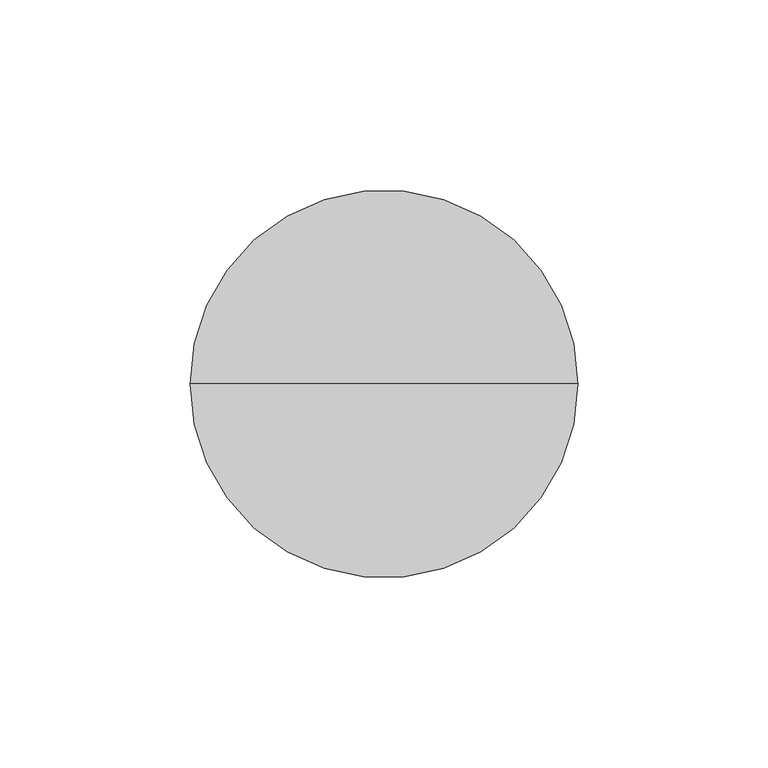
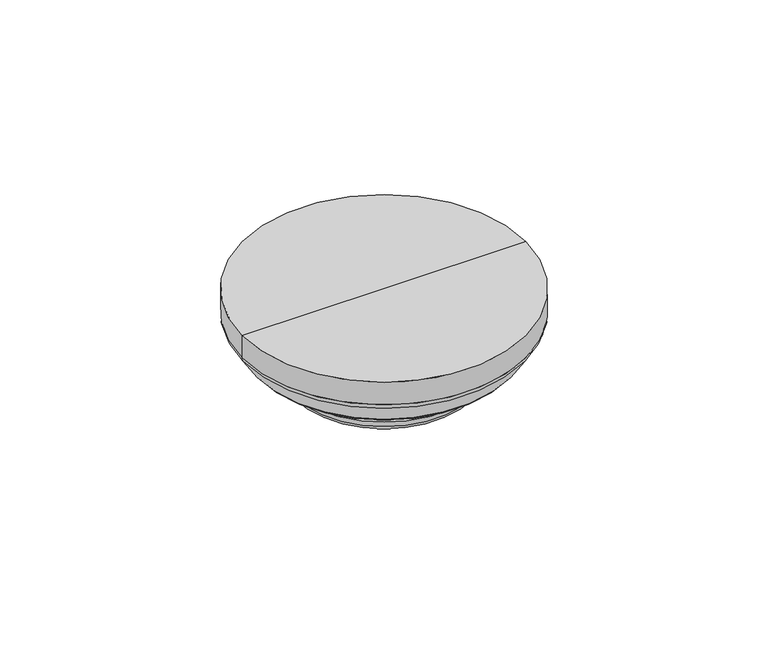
"""IFC4 building model written with IfcOpenShell, lengths in millimetres: alarm geometry, А2ДПИ_ тип модель : А2ДПИ (на перекрытии)."""

import ifcopenshell
import ifcopenshell.guid

model = None  # the IFC model being written
_history = None  # IfcOwnerHistory: only IFC2X3 demands one
_inside = {}  # id of a spatial element -> (the spatial element, [elements in it])
_under = {}  # id of a project, library or spatial element -> (it, [spatial elements below it])
_declared = {}  # id of a project -> (the project, [libraries it declares])
_typed = {}  # id of a type object -> (the type object, [elements of that type])
_made_of = {}  # id of a material, layer set ... -> (it, [elements and type objects made of it])


def new_model(schema):
    """Start an empty IFC model of exactly this schema.

    Asked for "IFC4X3", IfcOpenShell would pick the latest addendum, in which some entities
    have other attributes; the version numbers below select the first issue.
    IFC2X3 requires an IfcOwnerHistory on every rooted entity: one is made here for all.
    """
    global model, _history
    if schema == "IFC4X3":
        model = ifcopenshell.file(schema_version=(4, 3, 0, 0))
    else:
        model = ifcopenshell.file(schema=schema)
    _inside.clear()
    _under.clear()
    _declared.clear()
    _typed.clear()
    _made_of.clear()
    _history = None
    if model.schema == "IFC2X3":
        org = make("IfcOrganization", Name="unknown")
        user = make(
            "IfcPersonAndOrganization",
            ThePerson=make("IfcPerson", FamilyName="unknown"),
            TheOrganization=org,
        )
        app = make(
            "IfcApplication",
            ApplicationDeveloper=org,
            Version="unknown",
            ApplicationFullName="unknown",
            ApplicationIdentifier="unknown",
        )
        _history = make(
            "IfcOwnerHistory",
            OwningUser=user,
            OwningApplication=app,
            ChangeAction="ADDED",
            CreationDate=0,
        )
    return model


def make(cls, **values):
    """One entity of the class cls with the attributes given. An attribute that is None is left unset."""
    return model.create_entity(
        cls, **{name: value for name, value in values.items() if value is not None}
    )


def rooted(cls, **values):
    """An entity with a GlobalId (a new one), such as an element, a storey or a relation."""
    return make(cls, GlobalId=ifcopenshell.guid.new(), OwnerHistory=_history, **values)


def si_unit(unit_type, name, prefix=None):
    """IfcSIUnit, for example si_unit("LENGTHUNIT", "METRE", prefix="MILLI")."""
    return make("IfcSIUnit", UnitType=unit_type, Prefix=prefix, Name=name)


def assignment(units):
    """IfcUnitAssignment: the units of a project."""
    return None if units is None else make("IfcUnitAssignment", Units=units)


def point(xyz):
    """IfcCartesianPoint."""
    return None if xyz is None else make("IfcCartesianPoint", Coordinates=xyz)


def direction(xyz):
    """IfcDirection."""
    return None if xyz is None else make("IfcDirection", DirectionRatios=xyz)


def frame(location, z_axis=None, x_axis=None):
    """IfcAxis2Placement3D, a coordinate frame: its origin and axes. An axis left out is left unset."""
    return make(
        "IfcAxis2Placement3D",
        Location=point(location),
        Axis=direction(z_axis),
        RefDirection=direction(x_axis),
    )


def frame_2d(location, x_axis=None):
    """IfcAxis2Placement2D, a coordinate frame in the plane: its origin and x axis."""
    return make(
        "IfcAxis2Placement2D", Location=point(location), RefDirection=direction(x_axis)
    )


def origin():
    """The frame at (0, 0, 0) with its axes left unset."""
    return frame((0.0, 0.0, 0.0))


def origin_2d():
    """The frame at (0, 0) in the plane with its x axis left unset."""
    return frame_2d((0.0, 0.0))


def place(relative_to, where):
    """IfcLocalPlacement: puts the frame where relative to a parent placement (None: the world)."""
    return make(
        "IfcLocalPlacement", PlacementRelTo=relative_to, RelativePlacement=where
    )


def context(
    kind, dimensions, precision=None, world=None, true_north=None, identifier=None
):
    """IfcGeometricRepresentationContext, for example the 3D "Model" context."""
    return make(
        "IfcGeometricRepresentationContext",
        ContextIdentifier=identifier,
        ContextType=kind,
        CoordinateSpaceDimension=dimensions,
        Precision=precision,
        WorldCoordinateSystem=world,
        TrueNorth=true_north,
    )


def project(units=None, contexts=None):
    """IfcProject with its units and contexts."""
    return rooted(
        "IfcProject",
        Name="project",
        RepresentationContexts=contexts,
        UnitsInContext=assignment(units),
    )


def spatial(cls, under=None, at=None, **own):
    """A site, building, storey or space (cls), placed at a placement, below another one or the project."""
    s = rooted(cls, ObjectPlacement=at, **own)
    if under is not None:
        _under.setdefault(under.id(), (under, []))[1].append(s)
    return s


def polyline(points):
    """IfcPolyline through the points."""
    return make("IfcPolyline", Points=[point(p) for p in points])


def circle_curve(where, radius):
    """IfcCircle in the frame where."""
    return make("IfcCircle", Position=where, Radius=radius)


def ellipse_curve(where, semi_axis1, semi_axis2):
    """IfcEllipse in the frame where."""
    return make(
        "IfcEllipse", Position=where, SemiAxis1=semi_axis1, SemiAxis2=semi_axis2
    )


def trimmed(basis, trim1, trim2, sense, master):
    """IfcTrimmedCurve: the piece of a basis curve between two trims."""
    return make(
        "IfcTrimmedCurve",
        BasisCurve=basis,
        Trim1=trim1,
        Trim2=trim2,
        SenseAgreement=sense,
        MasterRepresentation=master,
    )


def segment(curve, same_sense, transition):
    """IfcCompositeCurveSegment."""
    return make(
        "IfcCompositeCurveSegment",
        Transition=transition,
        SameSense=same_sense,
        ParentCurve=curve,
    )


def composite_curve(segments, self_intersect=None):
    """IfcCompositeCurve: segments joined end to end."""
    return make("IfcCompositeCurve", Segments=segments, SelfIntersect=self_intersect)


def outline(outer, holes=None, kind="AREA"):
    """IfcArbitraryClosedProfileDef: a profile drawn as a closed curve; with holes, ...WithVoids."""
    if holes is None:
        return make("IfcArbitraryClosedProfileDef", ProfileType=kind, OuterCurve=outer)
    return make(
        "IfcArbitraryProfileDefWithVoids",
        ProfileType=kind,
        OuterCurve=outer,
        InnerCurves=holes,
    )


def extrude(swept, where, along, depth):
    """IfcExtrudedAreaSolid: the profile swept, set in the frame where, extruded along a direction by depth."""
    return make(
        "IfcExtrudedAreaSolid",
        SweptArea=swept,
        Position=where,
        ExtrudedDirection=direction(along),
        Depth=depth,
    )


def shape(context_of_items, identifier, shape_type, items):
    """IfcShapeRepresentation: the items that make up one representation, for example the "Body"."""
    return make(
        "IfcShapeRepresentation",
        ContextOfItems=context_of_items,
        RepresentationIdentifier=identifier,
        RepresentationType=shape_type,
        Items=items,
    )


def source(mapping_origin, context_of_items, identifier, shape_type, items):
    """IfcRepresentationMap: a shape defined once, which mapped items show again and again."""
    return make(
        "IfcRepresentationMap",
        MappingOrigin=mapping_origin,
        MappedRepresentation=shape(context_of_items, identifier, shape_type, items),
    )


def transform(
    local_origin,
    x_axis=None,
    y_axis=None,
    z_axis=None,
    scale=None,
    scale2=None,
    scale3=None,
    uniform=True,
):
    """IfcCartesianTransformationOperator3D, or its non-uniform kind. x_axis, y_axis, z_axis: its Axis1, 2, 3."""
    if uniform:
        return make(
            "IfcCartesianTransformationOperator3D",
            Axis1=direction(x_axis),
            Axis2=direction(y_axis),
            LocalOrigin=point(local_origin),
            Scale=scale,
            Axis3=direction(z_axis),
        )
    return make(
        "IfcCartesianTransformationOperator3DnonUniform",
        Axis1=direction(x_axis),
        Axis2=direction(y_axis),
        LocalOrigin=point(local_origin),
        Scale=scale,
        Axis3=direction(z_axis),
        Scale2=scale2,
        Scale3=scale3,
    )


def mapped(mapping_source, mapping_target):
    """IfcMappedItem: shows the shape of a source again, moved by a transform."""
    return make(
        "IfcMappedItem", MappingSource=mapping_source, MappingTarget=mapping_target
    )


def made_of(thing, what):
    """Note that an element or type object is made of a material, layer set ...; save() writes the relation."""
    if what is not None:
        _made_of.setdefault(what.id(), (what, []))[1].append(thing)
    return thing


def element(
    cls,
    number,
    at=None,
    inside=None,
    cuts=None,
    type_object=None,
    material=None,
    context=None,
    identifier="Body",
    shape_type=None,
    held_by="IfcProductDefinitionShape",
    body=None,
    shapes=None,
    **own,
):
    """One element of the class cls, such as IfcWall. Its Tag is "e" and its number.

    at: its placement. inside: the storey or other place that contains it. cuts: it is an
    opening in that element (IfcRelVoidsElement). A single representation is given by context,
    identifier, shape_type and body (its items); several are given by shapes. held_by: the class
    of the entity that holds the representations. save() writes the other relations.
    """
    e = rooted(cls, Tag="e%d" % number, ObjectPlacement=at, **own)
    if body is not None:
        shapes = [shape(context, identifier, shape_type, body)]
    if shapes is not None:
        e.Representation = make(held_by, Representations=shapes)
    if inside is not None:
        _inside.setdefault(inside.id(), (inside, []))[1].append(e)
    if cuts is not None:
        rooted(
            "IfcRelVoidsElement", RelatingBuildingElement=cuts, RelatedOpeningElement=e
        )
    if type_object is not None:
        _typed.setdefault(type_object.id(), (type_object, []))[1].append(e)
    return made_of(e, material)


def aggregate(whole, parts):
    """IfcRelAggregates: a whole, such as a stair, and the parts it consists of."""
    return rooted("IfcRelAggregates", RelatingObject=whole, RelatedObjects=parts)


def save(model, path):
    """Write the relations noted so far, then the file.

    IfcRelAggregates (storeys below a building ...), IfcRelContainedInSpatialStructure (elements
    in a storey), IfcRelDefinesByType, IfcRelAssociatesMaterial and IfcRelDeclares: one each for
    every whole, place, type object, material and project.
    """
    for whole, parts in _under.values():
        aggregate(whole, parts)
    for where, things in _inside.values():
        rooted(
            "IfcRelContainedInSpatialStructure",
            RelatedElements=things,
            RelatingStructure=where,
        )
    for kind, things in _typed.values():
        rooted("IfcRelDefinesByType", RelatedObjects=things, RelatingType=kind)
    for what, things in _made_of.values():
        rooted("IfcRelAssociatesMaterial", RelatedObjects=things, RelatingMaterial=what)
    for by, libraries in _declared.values():
        rooted("IfcRelDeclares", RelatingContext=by, RelatedDefinitions=libraries)
    model.write(path)


def plane_surface(at):
    """IfcPlane: the flat surface through the origin of the frame at, square to its z axis."""
    return make("IfcPlane", Position=at)


def cylinder_surface(at, radius):
    """IfcCylindricalSurface: all points at the distance radius from the z axis of the frame at."""
    return make("IfcCylindricalSurface", Position=at, Radius=radius)


def revolved_surface(curve, axis_point, axis_direction):
    """IfcSurfaceOfRevolution: the curve turned about the line through axis_point along axis_direction."""
    return make(
        "IfcSurfaceOfRevolution",
        SweptCurve=make("IfcArbitraryOpenProfileDef", ProfileType="CURVE", Curve=curve),
        AxisPosition=make("IfcAxis1Placement", Location=point(axis_point), Axis=direction(axis_direction)),
    )


def advanced_brep(points, edges, surfaces, faces):
    """IfcAdvancedBrep: a solid bounded by faces that lie on surfaces and meet in shared edges.

    An edge is (start, end): straight between two places in points (the first is 0);
    or (start, end, curve); or (start, end, curve, False) where it runs against its curve.
    A face is (place in surfaces, loops), or (place, loops, False) where it looks against
    its surface's normal. A loop lists edges by number (the first is 1), with a minus sign
    where the edge is run from its end to its start. The first loop is the outer one.
    """
    corners = [point(p) for p in points]
    vertices = [make("IfcVertexPoint", VertexGeometry=c) for c in corners]
    made = []
    for start, end, *more in edges:
        made.append(
            make(
                "IfcEdgeCurve",
                EdgeStart=vertices[start],
                EdgeEnd=vertices[end],
                EdgeGeometry=more[0] if more else make("IfcPolyline", Points=[corners[start], corners[end]]),
                SameSense=more[1] if len(more) > 1 else True,
            )
        )
    hull = []
    for where, loops, *sense in faces:
        bounds = []
        for j, loop in enumerate(loops):
            ring = [make("IfcOrientedEdge", EdgeElement=made[abs(k) - 1], Orientation=k > 0) for k in loop]
            bounds.append(
                make(
                    "IfcFaceOuterBound" if j == 0 else "IfcFaceBound",
                    Bound=make("IfcEdgeLoop", EdgeList=ring),
                    Orientation=True,
                )
            )
        hull.append(make("IfcAdvancedFace", Bounds=bounds, FaceSurface=surfaces[where], SameSense=sense[0] if sense else True))
    return make("IfcAdvancedBrep", Outer=make("IfcClosedShell", CfsFaces=hull))


def alarm_bf9d1f58(model_context):
    return source(origin(), model_context, "Body", "SolidModel", [
        extrude(outline(composite_curve([segment(trimmed(circle_curve(origin_2d(), 33.1926035), [point((27.6788417, 18.3202252))], [point((29.7052013, 14.8104674))], False, "CARTESIAN"), True, "CONTINUOUS"), segment(polyline([(29.7052013, 14.8104674), (28.8997604, 14.4088894)]), True, "CONTINUOUS"), segment(trimmed(circle_curve(origin_2d(), 32.2926035), [point((28.8997604, 14.4088894))], [point((26.9283444, 17.823482))], True, "CARTESIAN"), True, "CONTINUOUS"), segment(polyline([(26.9283444, 17.823482), (27.6788417, 18.3202252)]), True, "CONTINUOUS")], self_intersect=False)), frame((0.0, 0.0, -40.7), z_axis=(0.0, 0.0, 1.0), x_axis=(1.0, 0.0, 0.0)), (0.0, 0.0, 1.0), 9.6051821),
        extrude(outline(composite_curve([segment(trimmed(circle_curve(frame_2d((0.9938218, 10.016268)), 10.0162681), [point((0.9938218, 0.0))], [point((10.1633833, 5.9857881))], True, "CARTESIAN"), True, "CONTINUOUS"), segment(polyline([(10.1633833, 5.9857881), (10.4636698, 7.1064726), (11.7554446, 6.7603426), (9.0373791, -3.3836158), (-0.2405143, -0.8976117), (0.0, 0.0), (0.9938218, 0.0)]), True, "CONTINUOUS")], self_intersect=False)), frame((30.2852585, 13.6470527, -40.7), z_axis=(-0.44619782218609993, 0.8949343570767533, 0.0), x_axis=(0.23162605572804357, 0.11548449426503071, 0.9659258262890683)), (0.0, 0.0, 1.0), 1.3),
        extrude(outline(composite_curve([segment(trimmed(circle_curve(frame_2d((0.9938218, 10.0162681)), 10.0162681), [point((0.9938218, 0.0))], [point((10.1633833, 5.9857882))], True, "CARTESIAN"), True, "CONTINUOUS"), segment(polyline([(10.1633833, 5.9857882), (10.4636698, 7.1064727), (11.7554446, 6.7603426), (9.0373791, -3.3836158), (-0.2405143, -0.8976117), (0.0, 0.0), (0.9938218, 0.0)]), True, "CONTINUOUS")], self_intersect=False)), frame((27.6788417, 18.3202252, -40.7), z_axis=(-0.5519369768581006, 0.8338858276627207, 0.0), x_axis=(0.21582553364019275, 0.1428518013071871, 0.9659258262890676)), (0.0, 0.0, 1.0), 1.325191),
        extrude(outline(composite_curve([segment(trimmed(circle_curve(origin_2d(), 33.1926035), [point((29.7052013, -14.8104674))], [point((27.6788417, -18.3202252))], False, "CARTESIAN"), True, "CONTINUOUS"), segment(polyline([(27.6788417, -18.3202252), (26.9283444, -17.823482)]), True, "CONTINUOUS"), segment(trimmed(circle_curve(origin_2d(), 32.2926035), [point((26.9283444, -17.823482))], [point((28.8997604, -14.4088894))], True, "CARTESIAN"), True, "CONTINUOUS"), segment(polyline([(28.8997604, -14.4088894), (29.7052013, -14.8104674)]), True, "CONTINUOUS")], self_intersect=False)), frame((0.0, 0.0, -40.7), z_axis=(0.0, 0.0, 1.0), x_axis=(1.0, 0.0, 0.0)), (0.0, 0.0, 1.0), 9.6051821),
        extrude(outline(composite_curve([segment(trimmed(circle_curve(frame_2d((0.9938218, 10.016268)), 10.0162681), [point((0.9938217, 0.0))], [point((10.1633833, 5.9857882))], True, "CARTESIAN"), True, "CONTINUOUS"), segment(polyline([(10.1633833, 5.9857882), (10.4636698, 7.1064727), (11.7554446, 6.7603427), (9.0373791, -3.3836158), (-0.2405143, -0.8976117), (0.0, 0.0), (0.9938217, 0.0)]), True, "CONTINUOUS")], self_intersect=False)), frame((26.9613236, -19.4042768, -40.7), z_axis=(0.5519369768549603, 0.8338858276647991, 0.0), x_axis=(0.21582553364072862, -0.142851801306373, 0.9659258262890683)), (0.0, 0.0, 1.0), 1.3),
        extrude(outline(composite_curve([segment(trimmed(circle_curve(frame_2d((0.9938218, 10.0162681)), 10.0162681), [point((0.9938218, 0.0))], [point((10.1633833, 5.9857882))], True, "CARTESIAN"), True, "CONTINUOUS"), segment(polyline([(10.1633833, 5.9857882), (10.4636698, 7.1064727), (11.7554446, 6.7603427), (9.0373791, -3.3836157), (-0.2405143, -0.8976117), (0.0, 0.0), (0.9938218, 0.0)]), True, "CONTINUOUS")], self_intersect=False)), frame((29.7052013, -14.8104674, -40.7), z_axis=(0.44619782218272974, 0.8949343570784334, 0.0), x_axis=(0.23162605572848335, -0.11548449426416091, 0.9659258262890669)), (0.0, 0.0, 1.0), 1.325191),
        extrude(outline(composite_curve([segment(trimmed(circle_curve(origin_2d(), 33.1926035), [point((2.0263596, -33.1306926))], [point((-2.0263596, -33.1306926))], False, "CARTESIAN"), True, "CONTINUOUS"), segment(polyline([(-2.0263596, -33.1306926), (-1.971416, -32.2323713)]), True, "CONTINUOUS"), segment(trimmed(circle_curve(origin_2d(), 32.2926035), [point((-1.971416, -32.2323713))], [point((1.971416, -32.2323713))], True, "CARTESIAN"), True, "CONTINUOUS"), segment(polyline([(1.971416, -32.2323713), (2.0263596, -33.1306926)]), True, "CONTINUOUS")], self_intersect=False)), frame((0.0, 0.0, -40.7), z_axis=(0.0, 0.0, 1.0), x_axis=(1.0, 0.0, 0.0)), (0.0, 0.0, 1.0), 9.6051821),
        extrude(outline(composite_curve([segment(polyline([(-0.9938218, 1e-07), (0.0, 0.0), (0.2405143, -0.8976117), (-9.0373791, -3.3836157), (-11.7554446, 6.7603427), (-10.4636698, 7.1064727), (-10.1633833, 5.9857883)]), True, "CONTINUOUS"), segment(trimmed(circle_curve(frame_2d((-0.9938218, 10.0162681)), 10.0162681), [point((-10.1633833, 5.9857883))], [point((-0.9938218, 1e-07))], True, "CARTESIAN"), True, "CONTINUOUS")], self_intersect=False)), frame((-2.0263596, -33.1306926, -40.7), z_axis=(-0.9981347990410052, 0.06104852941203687, 0.0), x_axis=(0.01580052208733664, 0.25833629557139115, -0.9659258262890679)), (0.0, 0.0, 1.0), 1.3),
        extrude(outline(composite_curve([segment(trimmed(circle_curve(frame_2d((0.9938218, 10.0162681)), 10.0162681), [point((0.9938218, 1e-07))], [point((10.1633833, 5.9857883))], True, "CARTESIAN"), True, "CONTINUOUS"), segment(polyline([(10.1633833, 5.9857883), (10.4636698, 7.1064727), (11.7554446, 6.7603427), (9.0373791, -3.3836157), (-0.2405143, -0.8976117), (0.0, 0.0), (0.9938218, 1e-07)]), True, "CONTINUOUS")], self_intersect=False)), frame((2.0263596, -33.1306926, -40.7), z_axis=(0.9981347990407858, 0.06104852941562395, 0.0), x_axis=(0.01580052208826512, -0.2583362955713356, 0.9659258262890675)), (0.0, 0.0, 1.0), 1.325191),
        extrude(outline(composite_curve([segment(trimmed(circle_curve(origin_2d(), 33.1926035), [point((-27.6788417, -18.3202252))], [point((-29.7052013, -14.8104674))], False, "CARTESIAN"), True, "CONTINUOUS"), segment(polyline([(-29.7052013, -14.8104674), (-28.8997604, -14.4088894)]), True, "CONTINUOUS"), segment(trimmed(circle_curve(origin_2d(), 32.2926035), [point((-28.8997604, -14.4088894))], [point((-26.9283444, -17.823482))], True, "CARTESIAN"), True, "CONTINUOUS"), segment(polyline([(-26.9283444, -17.823482), (-27.6788417, -18.3202252)]), True, "CONTINUOUS")], self_intersect=False)), frame((0.0, 0.0, -40.7), z_axis=(0.0, 0.0, 1.0), x_axis=(1.0, 0.0, 0.0)), (0.0, 0.0, 1.0), 9.6051821),
        extrude(outline(composite_curve([segment(polyline([(-0.9938218, 0.0), (0.0, 0.0), (0.2405143, -0.8976117), (-9.0373791, -3.3836157), (-11.7554446, 6.7603427), (-10.4636698, 7.1064727), (-10.1633833, 5.9857882)]), True, "CONTINUOUS"), segment(trimmed(circle_curve(frame_2d((-0.9938218, 10.0162681)), 10.0162681), [point((-10.1633833, 5.9857882))], [point((-0.9938218, 0.0))], True, "CARTESIAN"), True, "CONTINUOUS")], self_intersect=False)), frame((-29.7052013, -14.8104674, -40.7), z_axis=(-0.4461978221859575, 0.8949343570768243, 0.0), x_axis=(0.23162605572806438, 0.11548449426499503, -0.9659258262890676)), (0.0, 0.0, 1.0), 1.3),
        extrude(outline(composite_curve([segment(polyline([(-0.9938217, 0.0), (0.0, 0.0), (0.2405143, -0.8976117), (-9.0373791, -3.3836158), (-11.7554446, 6.7603427), (-10.4636698, 7.1064727), (-10.1633833, 5.9857882)]), True, "CONTINUOUS"), segment(trimmed(circle_curve(frame_2d((-0.9938218, 10.0162681)), 10.0162681), [point((-10.1633833, 5.9857882))], [point((-0.9938217, 0.0))], True, "CARTESIAN"), True, "CONTINUOUS")], self_intersect=False)), frame((-26.9474197, -19.4252833, -40.7), z_axis=(-0.5519369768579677, 0.8338858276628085, 0.0), x_axis=(0.2158255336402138, 0.1428518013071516, -0.9659258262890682)), (0.0, 0.0, 1.0), 1.325191),
        extrude(outline(composite_curve([segment(trimmed(circle_curve(origin_2d(), 33.1926035), [point((-29.7052013, 14.8104674))], [point((-27.6788417, 18.3202252))], False, "CARTESIAN"), True, "CONTINUOUS"), segment(polyline([(-27.6788417, 18.3202252), (-26.9283444, 17.823482)]), True, "CONTINUOUS"), segment(trimmed(circle_curve(origin_2d(), 32.2926035), [point((-26.9283444, 17.823482))], [point((-28.8997604, 14.4088894))], True, "CARTESIAN"), True, "CONTINUOUS"), segment(polyline([(-28.8997604, 14.4088894), (-29.7052013, 14.8104674)]), True, "CONTINUOUS")], self_intersect=False)), frame((0.0, 0.0, -40.7), z_axis=(0.0, 0.0, 1.0), x_axis=(1.0, 0.0, 0.0)), (0.0, 0.0, 1.0), 9.6051821),
        extrude(outline(composite_curve([segment(polyline([(-0.9938218, 0.0), (0.0, 0.0), (0.2405143, -0.8976117), (-9.0373791, -3.3836158), (-11.7554446, 6.7603426), (-10.4636698, 7.1064727), (-10.1633833, 5.9857882)]), True, "CONTINUOUS"), segment(trimmed(circle_curve(frame_2d((-0.9938218, 10.0162681)), 10.0162681), [point((-10.1633833, 5.9857882))], [point((-0.9938218, 0.0))], True, "CARTESIAN"), True, "CONTINUOUS")], self_intersect=False)), frame((-27.6788417, 18.3202252, -40.7), z_axis=(0.5519369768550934, 0.833885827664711, 0.0), x_axis=(0.21582553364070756, -0.1428518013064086, -0.9659258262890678)), (0.0, 0.0, 1.0), 1.3),
        extrude(outline(composite_curve([segment(polyline([(-0.9938218, 0.0), (0.0, 0.0), (0.2405143, -0.8976117), (-9.0373791, -3.3836157), (-11.7554446, 6.7603427), (-10.4636698, 7.1064727), (-10.1633833, 5.9857882)]), True, "CONTINUOUS"), segment(trimmed(circle_curve(frame_2d((-0.9938218, 10.0162681)), 10.0162681), [point((-10.1633833, 5.9857882))], [point((-0.9938218, 0.0))], True, "CARTESIAN"), True, "CONTINUOUS")], self_intersect=False)), frame((-30.2964986, 13.6245084, -40.7), z_axis=(0.44619782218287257, 0.8949343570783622, 0.0), x_axis=(0.23162605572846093, -0.11548449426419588, -0.9659258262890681)), (0.0, 0.0, 1.0), 1.325191),
        extrude(outline(composite_curve([segment(trimmed(circle_curve(frame_2d((0.9938218, 10.016268)), 10.0162681), [point((0.9938217, 0.0))], [point((10.1633833, 5.9857882))], True, "CARTESIAN"), True, "CONTINUOUS"), segment(polyline([(10.1633833, 5.9857882), (10.4636698, 7.1064726), (11.7554446, 6.7603426), (9.0373791, -3.3836158), (-0.2405144, -0.8976118), (0.0, 0.0), (0.9938217, 0.0)]), True, "CONTINUOUS")], self_intersect=False)), frame((3.3239349, 33.0513296, -40.7), z_axis=(-0.9981347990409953, 0.061048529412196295, 0.0), x_axis=(0.015800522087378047, 0.25833629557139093, 0.9659258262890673)), (0.0, 0.0, 1.0), 1.3),
        extrude(outline(composite_curve([segment(polyline([(-0.9938217, 0.0), (0.0, 0.0), (0.2405143, -0.8976117), (-9.0373791, -3.3836157), (-11.7554446, 6.7603426), (-10.4636698, 7.1064726), (-10.1633833, 5.9857882)]), True, "CONTINUOUS"), segment(trimmed(circle_curve(frame_2d((-0.9938218, 10.016268)), 10.0162681), [point((-10.1633833, 5.9857882))], [point((-0.9938217, 0.0))], True, "CARTESIAN"), True, "CONTINUOUS")], self_intersect=False)), frame((-3.3490789, 33.0497917, -40.7), z_axis=(0.9981347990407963, 0.06104852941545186, 0.0), x_axis=(0.015800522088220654, -0.2583362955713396, -0.9659258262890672)), (0.0, 0.0, 1.0), 1.325191),
        extrude(outline(composite_curve([segment(trimmed(circle_curve(origin_2d(), 29.0), [point((-29.0, 0.0))], [point((29.0, 0.0))], False, "CARTESIAN"), True, "CONTINUOUS"), segment(trimmed(circle_curve(origin_2d(), 29.0), [point((29.0, 0.0))], [point((-29.0, 0.0))], False, "CARTESIAN"), True, "CONTINUOUS")], self_intersect=False)), frame((0.0, 0.0, -40.7), z_axis=(0.0, 0.0, 1.0), x_axis=(1.0, 0.0, 0.0)), (0.0, 0.0, 1.0), 9.6051821),
        advanced_brep(
        [(0.0, 0.0, -13.030442), (-51.0, 0.0, -13.030442), (51.0, 0.0, -13.030442), (0.0, 0.0, -40.7), (-33.1926035, 0.0, -40.7), (33.1926035, 0.0, -40.7), (2.0263596, 33.1306926, -40.7), (1.971416, 32.2323713, -40.7), (-1.971416, 32.2323713, -40.7), (-2.0263596, 33.1306926, -40.7), (17.0369869, 0.0, -46.0993937), (-17.0369869, 0.0, -46.0993937), (0.0, 0.0, -46.0993937), (45.5285317, 0.0, -30.9355647), (-45.5285317, 0.0, -30.9355647), (-42.765126, 0.0, -32.4321616), (42.765126, 0.0, -32.4321616), (50.4987362, 0.0, -23.3177072), (-50.4987362, 0.0, -23.3177072), (51.0, 0.0, -21.6320659), (-51.0, 0.0, -21.6320659), (30.1632448, 0.0, -44.9355917), (-30.1632448, 0.0, -44.9355917), (32.6564037, 0.0, -42.7296342), (-32.6564037, 0.0, -42.7296342), (42.765126, 0.0, -31.0948179), (-42.765126, 0.0, -31.0948179), (0.0, 0.0, -31.0948179), (2.0263596, 33.1306926, -31.0948179), (-2.0263596, 33.1306926, -31.0948179), (-1.971416, 32.2323713, -31.0948179), (1.971416, 32.2323713, -31.0948179)],
        [
            (0, 1),
            (1, 2, circle_curve(frame((0.0, 0.0, -13.030442), z_axis=(0.0, 0.0, 1.0), x_axis=(-1.0, 0.0, 0.0)), 51.0)),
            (2, 0),
            (2, 1, circle_curve(frame((0.0, 0.0, -13.030442), z_axis=(0.0, 0.0, 1.0), x_axis=(-1.0, 0.0, 0.0)), 51.0)),
            (3, 4),
            (4, 5, circle_curve(frame((0.0, 0.0, -40.7), z_axis=(0.0, 0.0, 1.0), x_axis=(-1.0, 0.0, 0.0)), 33.1926035)),
            (5, 3),
            (5, 6, circle_curve(frame((0.0, 0.0, -40.7), z_axis=(0.0, 0.0, 1.0), x_axis=(-1.0, 0.0, 0.0)), 33.1926035)),
            (6, 7),
            (7, 8, circle_curve(frame((0.0, 0.0, -40.7), z_axis=(0.0, 0.0, 1.0), x_axis=(-1.0, 0.0, 0.0)), 32.2926035)),
            (8, 9),
            (9, 4, circle_curve(frame((0.0, 0.0, -40.7), z_axis=(0.0, 0.0, 1.0), x_axis=(-1.0, 0.0, 0.0)), 33.1926035)),
            (10, 11, circle_curve(frame((0.0, 0.0, -46.0993937), z_axis=(0.0, 0.0, -1.0), x_axis=(-1.0, 0.0, 0.0)), 17.0369869)),
            (11, 12),
            (12, 10),
            (11, 10, circle_curve(frame((0.0, 0.0, -46.0993937), z_axis=(0.0, 0.0, -1.0), x_axis=(-1.0, 0.0, 0.0)), 17.0369869)),
            (13, 14, circle_curve(frame((0.0, 0.0, -30.9355647), z_axis=(0.0, 0.0, -1.0), x_axis=(-1.0, 0.0, 0.0)), 45.5285317)),
            (14, 15, circle_curve(frame((-42.765126, 0.0, -29.1326048), z_axis=(0.0, -1.0, 0.0), x_axis=(1.0, 0.0, 0.0)), 3.2995568)),
            (15, 16, circle_curve(frame((0.0, 0.0, -32.4321616), z_axis=(0.0, 0.0, 1.0), x_axis=(-1.0, 0.0, 0.0)), 42.765126)),
            (16, 13, circle_curve(frame((42.765126, 0.0, -29.1326048), z_axis=(0.0, -1.0, 0.0), x_axis=(-1.0, 0.0, 0.0)), 3.2995568)),
            (14, 13, circle_curve(frame((0.0, 0.0, -30.9355647), z_axis=(0.0, 0.0, -1.0), x_axis=(-1.0, 0.0, 0.0)), 45.5285317)),
            (16, 15, circle_curve(frame((0.0, 0.0, -32.4321616), z_axis=(0.0, 0.0, 1.0), x_axis=(-1.0, 0.0, 0.0)), 42.765126)),
            (13, 17),
            (17, 18, circle_curve(frame((0.0, 0.0, -23.3177072), z_axis=(0.0, 0.0, -1.0), x_axis=(-1.0, 0.0, 0.0)), 50.4987362)),
            (18, 14),
            (18, 17, circle_curve(frame((0.0, 0.0, -23.3177072), z_axis=(0.0, 0.0, -1.0), x_axis=(-1.0, 0.0, 0.0)), 50.4987362)),
            (17, 19, circle_curve(frame((47.9151453, 0.0, -21.6320659), z_axis=(0.0, -1.0, 0.0), x_axis=(-1.0, 0.0, 0.0)), 3.0848547)),
            (19, 20, circle_curve(frame((0.0, 0.0, -21.6320659), z_axis=(0.0, 0.0, -1.0), x_axis=(-1.0, 0.0, 0.0)), 51.0)),
            (20, 18, circle_curve(frame((-47.9151453, 0.0, -21.6320659), z_axis=(0.0, -1.0, 0.0), x_axis=(1.0, 0.0, 0.0)), 3.0848547)),
            (20, 19, circle_curve(frame((0.0, 0.0, -21.6320659), z_axis=(0.0, 0.0, -1.0), x_axis=(-1.0, 0.0, 0.0)), 51.0)),
            (1, 20),
            (19, 2),
            (10, 21, circle_curve(frame((15.7688576, 0.0, 42.8094874), z_axis=(0.0, -1.0, 0.0), x_axis=(0.16188397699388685, 0.0, -0.9868097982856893)), 88.9179244)),
            (21, 22, circle_curve(frame((0.0, 0.0, -44.9355917), z_axis=(0.0, 0.0, -1.0), x_axis=(-1.0, 0.0, 0.0)), 30.1632448)),
            (22, 11, circle_curve(frame((-15.7688576, 0.0, 42.8094874), z_axis=(0.0, -1.0, 0.0), x_axis=(-0.16188397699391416, 0.0, -0.9868097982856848)), 88.9179244)),
            (22, 21, circle_curve(frame((0.0, 0.0, -44.9355917), z_axis=(0.0, 0.0, -1.0), x_axis=(-1.0, 0.0, 0.0)), 30.1632448)),
            (21, 23, circle_curve(frame((29.7559056, 0.0, -41.9633648), z_axis=(0.0, -1.0000000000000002, 0.0), x_axis=(0.9668293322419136, 0.0, -0.2554232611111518)), 3.0000097)),
            (23, 24, circle_curve(frame((0.0, 0.0, -42.7296342), z_axis=(0.0, 0.0, -1.0), x_axis=(-1.0, 0.0, 0.0)), 32.6564037)),
            (24, 22, circle_curve(frame((-29.7559056, 0.0, -41.9633648), z_axis=(0.0, -1.0000000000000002, 0.0), x_axis=(-0.9668293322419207, 0.0, -0.25542326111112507)), 3.0000097)),
            (24, 23, circle_curve(frame((0.0, 0.0, -42.7296342), z_axis=(0.0, 0.0, -1.0), x_axis=(-1.0, 0.0, 0.0)), 32.6564037)),
            (4, 24),
            (23, 5),
            (9, 6, circle_curve(frame((0.0, 0.0, -40.7), z_axis=(0.0, 0.0, -1.0), x_axis=(-1.0, 0.0, 0.0)), 33.1926035)),
            (25, 26, circle_curve(frame((0.0, 0.0, -31.0948179), z_axis=(0.0, 0.0, -1.0), x_axis=(-1.0, 0.0, 0.0)), 42.765126)),
            (26, 27),
            (27, 25),
            (26, 25, circle_curve(frame((0.0, 0.0, -31.0948179), z_axis=(0.0, 0.0, -1.0), x_axis=(-1.0, 0.0, 0.0)), 42.765126)),
            (28, 29, circle_curve(frame((0.0, 0.0, -31.0948179), z_axis=(0.0, 0.0, 1.0), x_axis=(-1.0, 0.0, 0.0)), 33.1926035)),
            (29, 30),
            (30, 31, circle_curve(frame((0.0, 0.0, -31.0948179), z_axis=(0.0, 0.0, -1.0), x_axis=(-1.0, 0.0, 0.0)), 32.2926035)),
            (31, 28),
            (15, 26),
            (25, 16),
            (9, 29),
            (28, 6),
            (31, 7),
            (30, 8),
        ],
        [
            plane_surface(frame((0.0, 0.0, -13.030442), z_axis=(0.0, 0.0, 1.0), x_axis=(-1.0, 0.0, 0.0))),
            plane_surface(frame((0.0, 0.0, -40.7), z_axis=(0.0, 0.0, 1.0), x_axis=(-1.0, 0.0, 0.0))),
            plane_surface(frame((0.0, 0.0, -46.0993937), z_axis=(0.0, 0.0, -1.0), x_axis=(-1.0, 0.0, 0.0))),
            revolved_surface(trimmed(ellipse_curve(frame((-42.765126, 0.0, -29.1326048), z_axis=(0.0, 1.0, 0.0), x_axis=(1.0, 0.0, 0.0)), 3.2995568, 3.2995568), [point((-42.765126, 0.0, -32.4321616))], [point((-45.5285317, 0.0, -30.9355647))], True, "CARTESIAN"), (0.0, 0.0, 23.1661622), (0.0, 0.0, 1.0)),
            revolved_surface(polyline([(-45.5285317, 0.0, -30.9355647), (-50.4987362, 0.0, -23.3177072)]), (0.0, 0.0, 23.1661622), (0.0, 0.0, 1.0)),
            revolved_surface(trimmed(ellipse_curve(frame((-47.9151453, 0.0, -21.6320659), z_axis=(0.0, 1.0, 0.0), x_axis=(1.0, 0.0, 0.0)), 3.0848547, 3.0848547), [point((-50.4987362, 0.0, -23.3177072))], [point((-51.0, 0.0, -21.6320659))], True, "CARTESIAN"), (0.0, 0.0, 23.1661622), (0.0, 0.0, 1.0)),
            cylinder_surface(frame((0.0, 0.0, 23.1661622), z_axis=(0.0, 0.0, 1.0), x_axis=(-1.0, 0.0, 0.0)), 51.0),
            revolved_surface(trimmed(ellipse_curve(frame((-15.7688576, 0.0, 42.8094874), z_axis=(0.0, 1.0, 0.0), x_axis=(-0.16188397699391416, 0.0, -0.9868097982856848)), 88.9179244, 88.9179244), [point((-17.0369869, 0.0, -46.0993937))], [point((-30.1632448, 0.0, -44.9355917))], True, "CARTESIAN"), (0.0, 0.0, -52.030442), (0.0, 0.0, 1.0)),
            revolved_surface(trimmed(ellipse_curve(frame((-29.7559056, 0.0, -41.9633648), z_axis=(0.0, 1.0000000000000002, 0.0), x_axis=(-0.9668293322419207, 0.0, -0.25542326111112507)), 3.0000097, 3.0000097), [point((-30.1632448, 0.0, -44.9355917))], [point((-32.6564037, 0.0, -42.7296342))], True, "CARTESIAN"), (0.0, 0.0, -52.030442), (0.0, 0.0, 1.0)),
            revolved_surface(polyline([(-32.6564037, 0.0, -42.7296342), (-33.1926035, 0.0, -40.7)]), (0.0, 0.0, -52.030442), (0.0, 0.0, 1.0)),
            plane_surface(frame((0.0, 0.0, -31.0948179), z_axis=(0.0, 0.0, -1.0), x_axis=(-1.0, 0.0, 0.0))),
            revolved_surface(polyline([(-42.765126, 0.0, -31.0948179), (-42.765126, 0.0, -32.4321616)]), (0.0, 0.0, 23.1661622), (0.0, 0.0, 1.0)),
            cylinder_surface(frame((0.0, 0.0, -31.0948179), z_axis=(0.0, 0.0, -1.0), x_axis=(-1.0, 0.0, 0.0)), 33.1926035),
            plane_surface(frame((2.0263596, 33.1306926, -40.7), z_axis=(0.9981347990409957, -0.06104852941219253, 0.0), x_axis=(0.0, 0.0, 1.0))),
            revolved_surface(polyline([(-32.2926035, 0.0, -31.0948179), (-32.2926035, 0.0, -40.7)]), (0.0, 0.0, -31.0948179), (0.0, 0.0, 1.0)),
            plane_surface(frame((-1.971416, 32.2323713, -40.7), z_axis=(-0.9981347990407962, -0.061048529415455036, 0.0), x_axis=(0.0, 0.0, 1.0))),
        ],
        [
            (0, [[1, 2, 3]]),
            (0, [[-1, -3, 4]]),
            (1, [[5, 6, 7]]),
            (1, [[-5, -7, 8, 9, 10, 11, 12]]),
            (2, [[13, 14, 15]]),
            (2, [[-14, 16, -15]]),
            (3, [[17, 18, 19, 20]]),
            (3, [[-18, 21, -20, 22]]),
            (4, [[-17, 23, 24, 25]]),
            (4, [[-21, -25, 26, -23]]),
            (5, [[-24, 27, 28, 29]]),
            (5, [[-26, -29, 30, -27]]),
            (6, [[-2, 31, -28, 32]]),
            (6, [[-4, -32, -30, -31]]),
            (7, [[-13, 33, 34, 35]]),
            (7, [[-16, -35, 36, -33]]),
            (8, [[-34, 37, 38, 39]]),
            (8, [[-36, -39, 40, -37]]),
            (9, [[-6, 41, -38, 42]]),
            (9, [[-40, -41, -12, 43, -8, -42]]),
            (10, [[44, 45, 46]]),
            (10, [[-45, 47, -46], [48, 49, 50, 51]]),
            (11, [[-19, 52, -44, 53]]),
            (11, [[-22, -53, -47, -52]]),
            (12, [[54, -48, 55, -43]]),
            (13, [[-55, -51, 56, -9]]),
            (14, [[-56, -50, 57, -10]]),
            (15, [[-54, -11, -57, -49]]),
        ],
    ),
    ])


if __name__ == "__main__":
    model = new_model("IFC4")
    model_context = context("Model", 3, world=origin())
    ifc_project = project(units=[si_unit("LENGTHUNIT", "METRE", prefix="MILLI")], contexts=[model_context])
    site = spatial("IfcSite", under=ifc_project)
    building = spatial("IfcBuilding", under=site)
    placement = place(None, origin())
    alarm_shape = alarm_bf9d1f58(model_context)
    element("IfcAlarm", 1, ObjectType="А2ДПИ_ тип модель : А2ДПИ (на перекрытии)", at=placement, inside=building, context=model_context, shape_type="MappedRepresentation", body=[
        mapped(alarm_shape, transform((0.0, 0.0, 0.0), x_axis=(1.0, 0.0, 0.0), y_axis=(0.0, 1.0, 0.0), z_axis=(0.0, 0.0, 1.0))),
    ])
    save(model, "model.ifc")
